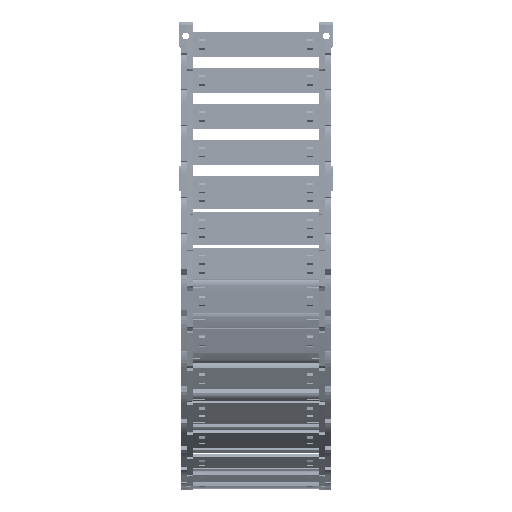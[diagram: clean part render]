
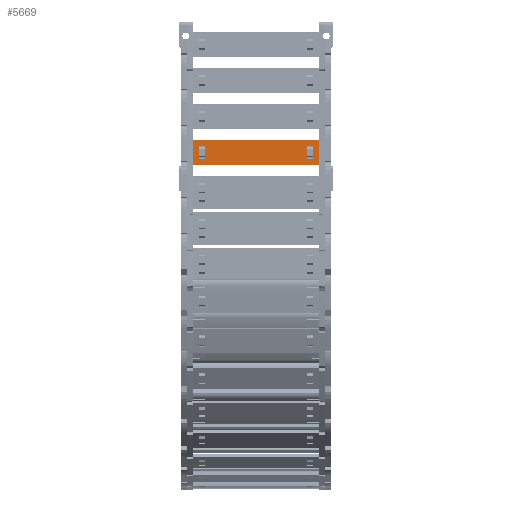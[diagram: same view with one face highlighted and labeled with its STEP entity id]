
A CAD part, left-side view. The second image highlights one B-rep face of the part: STEP entity #5669.
In plain terms, the highlighted planar face has unit normal (-1, 0, 0) as drawn and (0, 1, 0) by its records, which use the part's own axes.
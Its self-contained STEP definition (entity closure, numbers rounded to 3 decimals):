
#5089=DIRECTION('',(0.,0.,1.));
#5090=VECTOR('',#5089,15.8);
#5091=CARTESIAN_POINT('',(65.74,1.5,-7.9));
#5092=LINE('',#5091,#5090);
#5093=DIRECTION('',(-1.,0.,0.));
#5094=VECTOR('',#5093,80.5);
#5095=CARTESIAN_POINT('',(65.74,1.5,7.9));
#5096=LINE('',#5095,#5094);
#5097=DIRECTION('',(0.,0.,-1.));
#5098=VECTOR('',#5097,15.8);
#5099=CARTESIAN_POINT('',(-14.76,1.5,7.9));
#5100=LINE('',#5099,#5098);
#5101=DIRECTION('',(1.,0.,0.));
#5102=VECTOR('',#5101,3.648);
#5103=CARTESIAN_POINT('',(58.122,1.5,4.075));
#5104=LINE('',#5103,#5102);
#5105=DIRECTION('',(0.,0.,-1.));
#5106=VECTOR('',#5105,8.15);
#5107=CARTESIAN_POINT('',(61.77,1.5,4.075));
#5108=LINE('',#5107,#5106);
#5109=DIRECTION('',(-1.,0.,0.));
#5110=VECTOR('',#5109,3.648);
#5111=CARTESIAN_POINT('',(61.77,1.5,-4.075));
#5112=LINE('',#5111,#5110);
#5113=DIRECTION('',(0.,0.,-1.));
#5114=VECTOR('',#5113,8.15);
#5115=CARTESIAN_POINT('',(-7.142,1.5,4.075));
#5116=LINE('',#5115,#5114);
#5117=DIRECTION('',(-1.,0.,0.));
#5118=VECTOR('',#5117,3.648);
#5119=CARTESIAN_POINT('',(-7.142,1.5,-4.075));
#5120=LINE('',#5119,#5118);
#5121=DIRECTION('',(0.,0.,1.));
#5122=VECTOR('',#5121,8.15);
#5123=CARTESIAN_POINT('',(-10.79,1.5,-4.075));
#5124=LINE('',#5123,#5122);
#5125=DIRECTION('',(1.,0.,0.));
#5126=VECTOR('',#5125,3.648);
#5127=CARTESIAN_POINT('',(-10.79,1.5,4.075));
#5128=LINE('',#5127,#5126);
#5133=DIRECTION('',(-1.,0.,0.));
#5134=VECTOR('',#5133,80.5);
#5135=CARTESIAN_POINT('',(65.74,1.5,-7.9));
#5136=LINE('',#5135,#5134);
#5254=DIRECTION('',(0.,0.,-1.));
#5255=VECTOR('',#5254,8.15);
#5256=CARTESIAN_POINT('',(58.122,1.5,4.075));
#5257=LINE('',#5256,#5255);
#5439=CARTESIAN_POINT('',(61.77,1.5,4.075));
#5440=VERTEX_POINT('',#5439);
#5441=CARTESIAN_POINT('',(58.122,1.5,4.075));
#5442=VERTEX_POINT('',#5441);
#5483=CARTESIAN_POINT('',(58.122,1.5,-4.075));
#5484=VERTEX_POINT('',#5483);
#5485=CARTESIAN_POINT('',(61.77,1.5,-4.075));
#5486=VERTEX_POINT('',#5485);
#5487=CARTESIAN_POINT('',(65.74,1.5,7.9));
#5489=VERTEX_POINT('',#5487);
#5491=CARTESIAN_POINT('',(65.74,1.5,-7.9));
#5492=VERTEX_POINT('',#5491);
#5515=CARTESIAN_POINT('',(-7.142,1.5,4.075));
#5516=CARTESIAN_POINT('',(-7.142,1.5,-4.075));
#5517=VERTEX_POINT('',#5515);
#5518=VERTEX_POINT('',#5516);
#5519=CARTESIAN_POINT('',(-10.79,1.5,-4.075));
#5520=VERTEX_POINT('',#5519);
#5521=CARTESIAN_POINT('',(-10.79,1.5,4.075));
#5522=VERTEX_POINT('',#5521);
#5523=CARTESIAN_POINT('',(-14.76,1.5,7.9));
#5524=VERTEX_POINT('',#5523);
#5527=CARTESIAN_POINT('',(-14.76,1.5,-7.9));
#5528=VERTEX_POINT('',#5527);
#5638=CARTESIAN_POINT('',(97.48,1.5,10.061));
#5639=DIRECTION('',(0.,-1.,0.));
#5640=DIRECTION('',(0.,0.,-1.));
#5641=AXIS2_PLACEMENT_3D('',#5638,#5639,#5640);
#5642=PLANE('',#5641);
#5643=ORIENTED_EDGE('',*,*,#5577,.T.);
#5644=ORIENTED_EDGE('',*,*,#5603,.T.);
#5645=ORIENTED_EDGE('',*,*,#5616,.T.);
#5647=ORIENTED_EDGE('',*,*,#5646,.F.);
#5648=EDGE_LOOP('',(#5643,#5644,#5645,#5647));
#5649=FACE_OUTER_BOUND('',#5648,.F.);
#5651=ORIENTED_EDGE('',*,*,#5650,.F.);
#5652=ORIENTED_EDGE('',*,*,#5540,.T.);
#5654=ORIENTED_EDGE('',*,*,#5653,.T.);
#5656=ORIENTED_EDGE('',*,*,#5655,.T.);
#5657=EDGE_LOOP('',(#5651,#5652,#5654,#5656));
#5658=FACE_BOUND('',#5657,.F.);
#5660=ORIENTED_EDGE('',*,*,#5659,.T.);
#5662=ORIENTED_EDGE('',*,*,#5661,.T.);
#5664=ORIENTED_EDGE('',*,*,#5663,.T.);
#5666=ORIENTED_EDGE('',*,*,#5665,.T.);
#5667=EDGE_LOOP('',(#5660,#5662,#5664,#5666));
#5668=FACE_BOUND('',#5667,.F.);
#5669=ADVANCED_FACE('',(#5649,#5658,#5668),#5642,.F.);
#5540=EDGE_CURVE('',#5442,#5440,#5104,.T.);
#5577=EDGE_CURVE('',#5492,#5489,#5092,.T.);
#5603=EDGE_CURVE('',#5489,#5524,#5096,.T.);
#5616=EDGE_CURVE('',#5524,#5528,#5100,.T.);
#5646=EDGE_CURVE('',#5492,#5528,#5136,.T.);
#5650=EDGE_CURVE('',#5442,#5484,#5257,.T.);
#5653=EDGE_CURVE('',#5440,#5486,#5108,.T.);
#5655=EDGE_CURVE('',#5486,#5484,#5112,.T.);
#5659=EDGE_CURVE('',#5517,#5518,#5116,.T.);
#5661=EDGE_CURVE('',#5518,#5520,#5120,.T.);
#5663=EDGE_CURVE('',#5520,#5522,#5124,.T.);
#5665=EDGE_CURVE('',#5522,#5517,#5128,.T.);
